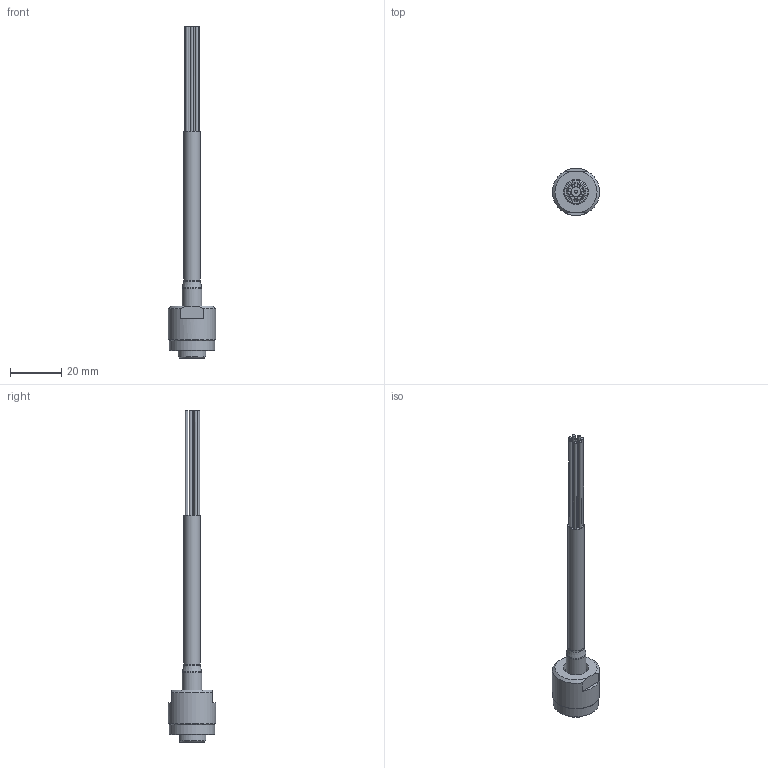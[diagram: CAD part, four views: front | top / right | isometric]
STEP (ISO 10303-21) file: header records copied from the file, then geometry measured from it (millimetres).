
FILE_DESCRIPTION (( 'STEP AP203' ), '1' );
FILE_NAME ('COB-128X-R1 Cable 8 Pin.STEP', '2023-04-27T19:09:53', ( '' ), ( '' ), 'SwSTEP 2.0', 'SolidWorks 2022', '' );
FILE_SCHEMA (( 'CONFIG_CONTROL_DESIGN' ));
Length unit declared in the file: millimetre
Products named in the file (1): COB-128X-R1 Cable 8 Pin
Bounding box: 18.5 x 18.5 x 130 mm (x, y, z)
Volume: 5572.3 mm3; surface area: 7534.4 mm2
Topology: 2 solids, 2 shells, 217 faces, 495 edges, 323 vertices
Faces by surface type: cylinder 80, plane 59, cone 47, torus 28, bspline 3
Full cylindrical faces by diameter (mm): 0.94 x8, 1.13 x8, 1.194 x8, 1.422 x8, 1.626 x8, 1.7 x8, 6.35 x1, 7.71 x1, 8.3 x1, 9.5 x1, 9.562 x1, 9.75 x1, 12 x2, 16 x1, 17.75 x1, 18.5 x1
Entity records: 6711 total; most frequent: CARTESIAN_POINT 2483, DIRECTION 895, ORIENTED_EDGE 696, AXIS2_PLACEMENT_3D 427, EDGE_LOOP 349, EDGE_CURVE 348, VERTEX_POINT 277, FACE_OUTER_BOUND 276
